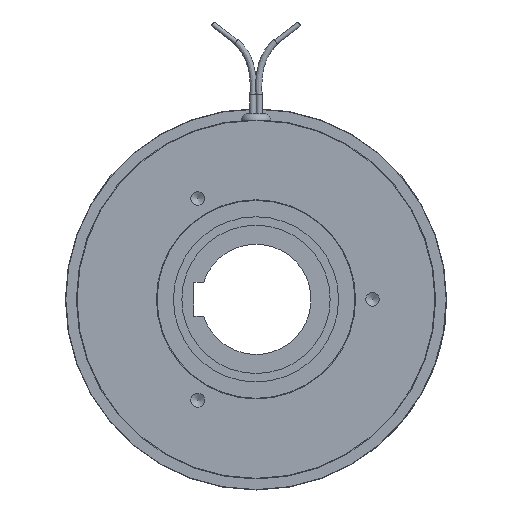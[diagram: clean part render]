
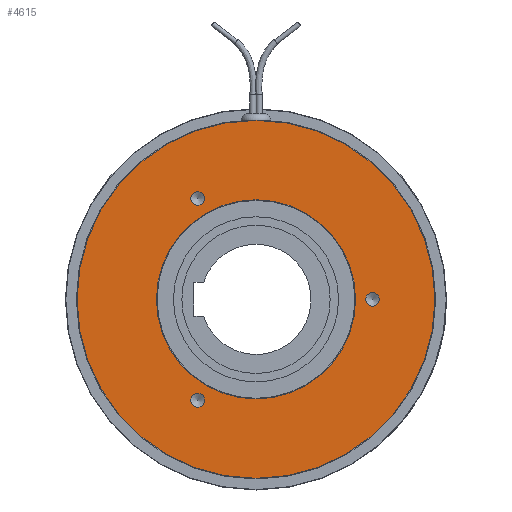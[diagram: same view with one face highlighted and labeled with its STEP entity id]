
A CAD part, left-side view. The second image highlights one B-rep face of the part: STEP entity #4615.
In plain terms, the highlighted planar face has unit normal (-1, 0, 0).
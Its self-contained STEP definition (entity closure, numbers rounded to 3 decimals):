
#448=FACE_BOUND('',#1280,.T.);
#449=FACE_BOUND('',#1281,.T.);
#450=FACE_BOUND('',#1282,.T.);
#451=FACE_BOUND('',#1283,.T.);
#643=CIRCLE('',#5029,42.25);
#644=CIRCLE('',#5030,42.25);
#645=CIRCLE('',#5032,23.5);
#648=CIRCLE('',#5035,23.5);
#649=CIRCLE('',#5037,42.25);
#650=CIRCLE('',#5038,1.621);
#651=CIRCLE('',#5039,1.621);
#652=CIRCLE('',#5040,1.621);
#653=CIRCLE('',#5041,1.621);
#654=CIRCLE('',#5042,1.621);
#655=CIRCLE('',#5043,1.621);
#996=FACE_OUTER_BOUND('',#1279,.T.);
#1279=EDGE_LOOP('',(#3546,#3547,#3548));
#1280=EDGE_LOOP('',(#3549,#3550));
#1281=EDGE_LOOP('',(#3551,#3552));
#1282=EDGE_LOOP('',(#3553,#3554));
#1283=EDGE_LOOP('',(#3555,#3556));
#2089=VERTEX_POINT('',#7629);
#2090=VERTEX_POINT('',#7631);
#2091=VERTEX_POINT('',#7633);
#2095=VERTEX_POINT('',#7660);
#2096=VERTEX_POINT('',#7661);
#2099=VERTEX_POINT('',#7671);
#2100=VERTEX_POINT('',#7672);
#2101=VERTEX_POINT('',#7675);
#2102=VERTEX_POINT('',#7676);
#2103=VERTEX_POINT('',#7679);
#2104=VERTEX_POINT('',#7680);
#2637=EDGE_CURVE('',#2090,#2089,#643,.T.);
#2638=EDGE_CURVE('',#2091,#2090,#644,.T.);
#2643=EDGE_CURVE('',#2095,#2096,#645,.T.);
#2647=EDGE_CURVE('',#2096,#2095,#648,.T.);
#2648=EDGE_CURVE('',#2089,#2091,#649,.T.);
#2649=EDGE_CURVE('',#2099,#2100,#650,.T.);
#2650=EDGE_CURVE('',#2100,#2099,#651,.T.);
#2651=EDGE_CURVE('',#2101,#2102,#652,.T.);
#2652=EDGE_CURVE('',#2102,#2101,#653,.T.);
#2653=EDGE_CURVE('',#2103,#2104,#654,.T.);
#2654=EDGE_CURVE('',#2104,#2103,#655,.T.);
#3546=ORIENTED_EDGE('',*,*,#2637,.T.);
#3547=ORIENTED_EDGE('',*,*,#2648,.T.);
#3548=ORIENTED_EDGE('',*,*,#2638,.T.);
#3549=ORIENTED_EDGE('',*,*,#2649,.T.);
#3550=ORIENTED_EDGE('',*,*,#2650,.T.);
#3551=ORIENTED_EDGE('',*,*,#2651,.T.);
#3552=ORIENTED_EDGE('',*,*,#2652,.T.);
#3553=ORIENTED_EDGE('',*,*,#2653,.T.);
#3554=ORIENTED_EDGE('',*,*,#2654,.T.);
#3555=ORIENTED_EDGE('',*,*,#2643,.F.);
#3556=ORIENTED_EDGE('',*,*,#2647,.F.);
#4469=PLANE('',#5036);
#4615=ADVANCED_FACE('',(#996,#448,#449,#450,#451),#4469,.T.);
#5029=AXIS2_PLACEMENT_3D('',#7632,#5992,#5993);
#5030=AXIS2_PLACEMENT_3D('',#7634,#5994,#5995);
#5032=AXIS2_PLACEMENT_3D('',#7662,#6001,#6002);
#5035=AXIS2_PLACEMENT_3D('',#7668,#6008,#6009);
#5036=AXIS2_PLACEMENT_3D('',#7669,#6010,#6011);
#5037=AXIS2_PLACEMENT_3D('',#7670,#6012,#6013);
#5038=AXIS2_PLACEMENT_3D('',#7673,#6014,#6015);
#5039=AXIS2_PLACEMENT_3D('',#7674,#6016,#6017);
#5040=AXIS2_PLACEMENT_3D('',#7677,#6018,#6019);
#5041=AXIS2_PLACEMENT_3D('',#7678,#6020,#6021);
#5042=AXIS2_PLACEMENT_3D('',#7681,#6022,#6023);
#5043=AXIS2_PLACEMENT_3D('',#7682,#6024,#6025);
#5992=DIRECTION('center_axis',(-1.,0.,0.));
#5993=DIRECTION('ref_axis',(0.,1.,0.));
#5994=DIRECTION('center_axis',(-1.,0.,0.));
#5995=DIRECTION('ref_axis',(0.,1.,0.));
#6001=DIRECTION('center_axis',(-1.,0.,0.));
#6002=DIRECTION('ref_axis',(0.,1.,0.));
#6008=DIRECTION('center_axis',(-1.,0.,0.));
#6009=DIRECTION('ref_axis',(0.,1.,0.));
#6010=DIRECTION('center_axis',(-1.,0.,0.));
#6011=DIRECTION('ref_axis',(0.,0.,
1.));
#6012=DIRECTION('center_axis',(-1.,0.,0.));
#6013=DIRECTION('ref_axis',(0.,1.,0.));
#6014=DIRECTION('center_axis',(1.,0.,0.));
#6015=DIRECTION('ref_axis',(0.,0.,
1.));
#6016=DIRECTION('center_axis',(1.,0.,0.));
#6017=DIRECTION('ref_axis',(0.,0.,
1.));
#6018=DIRECTION('center_axis',(1.,0.,0.));
#6019=DIRECTION('ref_axis',(0.,0.,
1.));
#6020=DIRECTION('center_axis',(1.,0.,0.));
#6021=DIRECTION('ref_axis',(0.,0.,
1.));
#6022=DIRECTION('center_axis',(1.,0.,0.));
#6023=DIRECTION('ref_axis',(0.,0.,
1.));
#6024=DIRECTION('center_axis',(1.,0.,0.));
#6025=DIRECTION('ref_axis',(0.,0.,
1.));
#7629=CARTESIAN_POINT('',(-14.05,-42.25,0.));
#7631=CARTESIAN_POINT('',(-14.05,42.25,0.));
#7632=CARTESIAN_POINT('Origin',(-14.05,0.,0.));
#7633=CARTESIAN_POINT('',(-14.05,0.,42.25));
#7634=CARTESIAN_POINT('Origin',(-14.05,0.,0.));
#7660=CARTESIAN_POINT('',(-14.05,23.5,0.));
#7661=CARTESIAN_POINT('',(-14.05,-23.5,0.));
#7662=CARTESIAN_POINT('Origin',(-14.05,0.,0.));
#7668=CARTESIAN_POINT('Origin',(-14.05,0.,0.));
#7669=CARTESIAN_POINT('Origin',(-14.05,32.875,0.));
#7670=CARTESIAN_POINT('Origin',(-14.05,0.,0.));
#7671=CARTESIAN_POINT('',(-14.05,13.75,25.437));
#7672=CARTESIAN_POINT('',(-14.05,13.75,22.195));
#7673=CARTESIAN_POINT('Origin',(-14.05,13.75,23.816));
#7674=CARTESIAN_POINT('Origin',(-14.05,13.75,23.816));
#7675=CARTESIAN_POINT('',(-14.05,-27.5,1.621));
#7676=CARTESIAN_POINT('',(-14.05,-27.5,-1.621));
#7677=CARTESIAN_POINT('Origin',(-14.05,-27.5,0.));
#7678=CARTESIAN_POINT('Origin',(-14.05,-27.5,0.));
#7679=CARTESIAN_POINT('',(-14.05,13.75,-22.195));
#7680=CARTESIAN_POINT('',(-14.05,13.75,-25.437));
#7681=CARTESIAN_POINT('Origin',(-14.05,13.75,-23.816));
#7682=CARTESIAN_POINT('Origin',(-14.05,13.75,-23.816));
